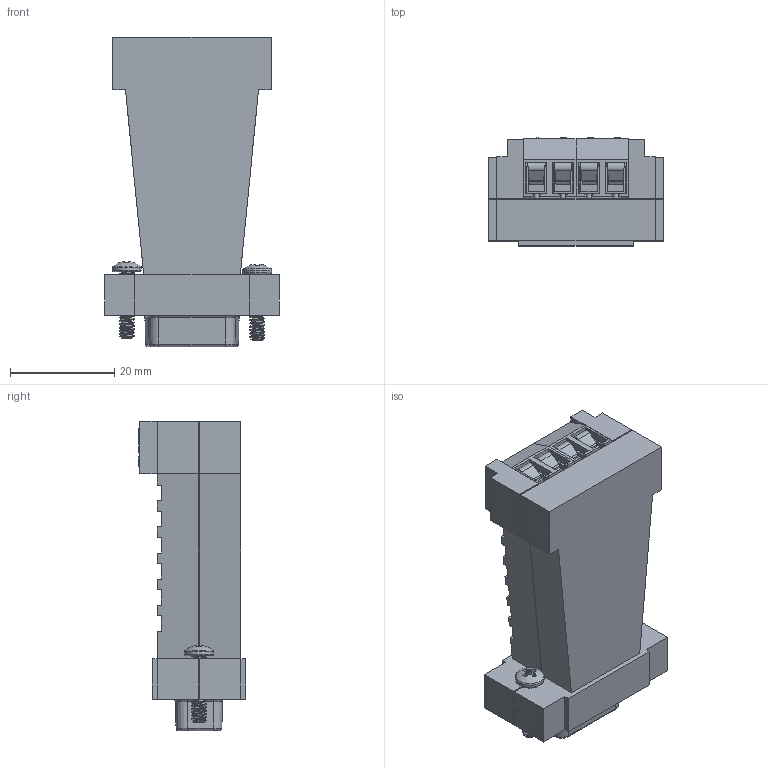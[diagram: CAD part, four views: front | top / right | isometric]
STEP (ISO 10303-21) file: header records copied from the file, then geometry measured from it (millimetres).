
FILE_DESCRIPTION(/* description */ (''),/* implementation_level */ '2;1');
FILE_NAME(/* name */ '/Users/leo/Desktop/Coolgear May/GM-10211-B/GM-10211-B Model3D LPV1.step',/* time_stamp */ '2021-08-24T16:54:54-04:00',/* author */ (''),/* organization */ (''),/* preprocessor_version */ 'ST-DEVELOPER v18.1',/* originating_system */ 'Autodesk Translation Framework v10.9.0.1377',/* authorisation */ '');
FILE_SCHEMA (('AUTOMOTIVE_DESIGN { 1 0 10303 214 3 1 1 }'));
Length unit declared in the file: millimetre
Products named in the file (1): FusionComponent
Bounding box: 33.5 x 20.6 x 59.2 mm (x, y, z)
Volume: 10263.9 mm3; surface area: 16970.6 mm2
Topology: 1 solids, 1 shells, 780 faces, 2291 edges, 1516 vertices
Faces by surface type: plane 479, cylinder 203, bspline 55, cone 16, torus 16, sphere 11
Full cylindrical faces by diameter (mm): 1 x13, 2.02 x38, 2.8 x14, 2.845 x20, 3.5 x4, 3.8 x4, 5.563 x2
Entity records: 34303 total; most frequent: CARTESIAN_POINT 13849, ORIENTED_EDGE 4564, DIRECTION 3800, EDGE_CURVE 2282, LINE 1568, VECTOR 1568, VERTEX_POINT 1516, AXIS2_PLACEMENT_3D 1116
